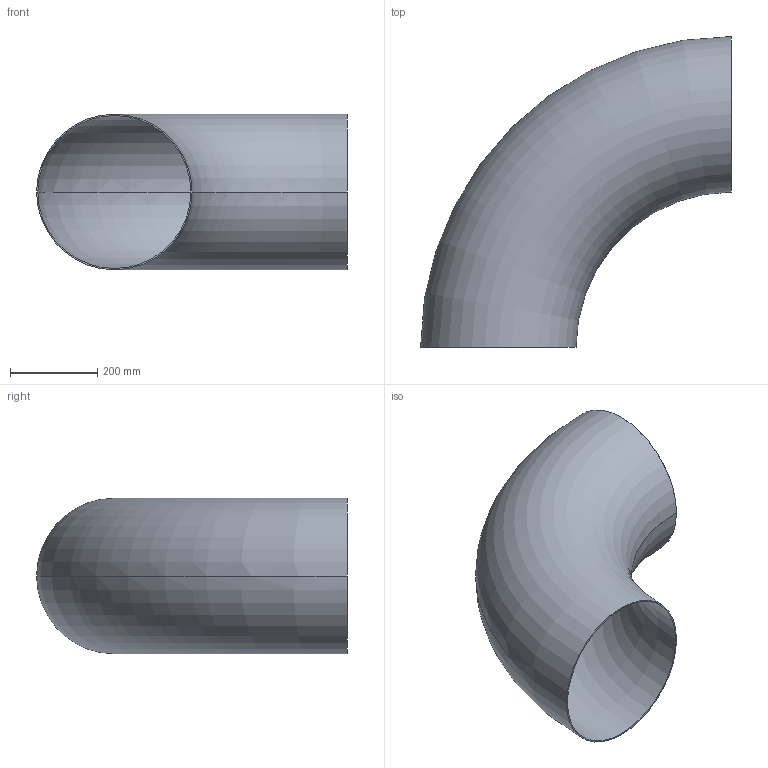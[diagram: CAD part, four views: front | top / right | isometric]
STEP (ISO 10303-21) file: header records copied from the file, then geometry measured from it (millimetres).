
FILE_DESCRIPTION (( 'STEP AP203' ), '1' );
FILE_NAME ('OT200-350-355_6x2_9_OSTP.step', '2020-12-16T03:09:12', ( '' ), ( '' ), 'SwSTEP 2.0', 'SolidWorks 2014', '' );
FILE_SCHEMA (( 'CONFIG_CONTROL_DESIGN' ));
Length unit declared in the file: millimetre
Products named in the file (1): OT200-350-355_6x2_9_OSTP
Bounding box: 710.8 x 710.8 x 355.6 mm (x, y, z)
Volume: 2690298.2 mm3; surface area: 1861804.7 mm2
Topology: 1 solids, 1 shells, 6 faces, 12 edges, 8 vertices
Faces by surface type: torus 4, plane 2
Entity records: 249 total; most frequent: DIRECTION 38, CARTESIAN_POINT 27, ORIENTED_EDGE 24, AXIS2_PLACEMENT_3D 19, CIRCLE 12, EDGE_CURVE 12, VERTEX_POINT 8, PERSON_AND_ORGANIZATION 8
